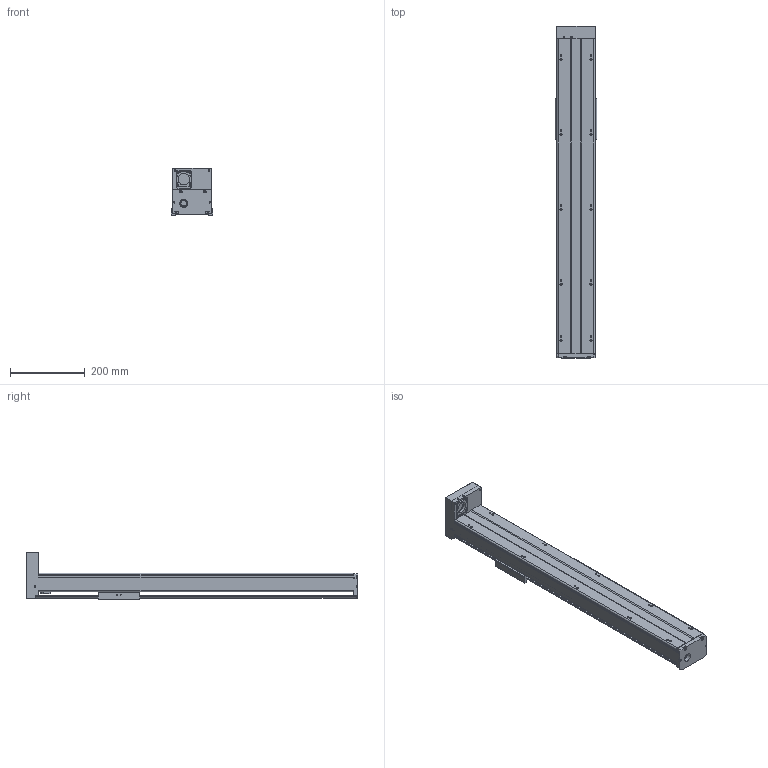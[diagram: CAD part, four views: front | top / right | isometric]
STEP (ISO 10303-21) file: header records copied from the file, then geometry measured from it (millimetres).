
FILE_DESCRIPTION(/* description */ (''),/* implementation_level */ '2;1');
FILE_NAME(/* name */ 'TKA100-FD-650_asm1.stp',/* time_stamp */ '2016-05-16T15:25:10+08:00',/* author */ (''),/* organization */ (''),/* preprocessor_version */ 'ST-DEVELOPER v15',/* originating_system */ 'SIEMENS PLM Software NX 8.5',/* authorisation */ '');
FILE_SCHEMA (('AUTOMOTIVE_DESIGN { 1 0 10303 214 3 1 1 1 }'));
Length unit declared in the file: millimetre
Products named in the file (3): 200-02; 200-01; TKA100-FD-650_asm1
Assembly tree (2 placements, depth 2):
  TKA100-FD-650_asm1
    200-01
    200-02
Bounding box: 110 x 886 x 127 mm (x, y, z)
Volume: 1930173.9 mm3; surface area: 671592.5 mm2
Topology: 2 solids, 11 shells, 786 faces, 2034 edges, 1320 vertices
Faces by surface type: cylinder 304, plane 296, cone 122, torus 38, bspline 26
Full cylindrical faces by diameter (mm): 2.5 x6, 2.6 x8, 3.3 x10, 3.4 x9, 3.8 x8, 4.2 x19, 4.3 x4, 4.5 x8, 5 x1, 5.5 x20, 6.6 x4, 8 x5, 9 x4, 10 x12, 11 x4, 12 x7, 15.3 x1, 16 x1, 22 x1, 24 x1, 28 x4, 30 x1, 33 x1
Entity records: 28212 total; most frequent: CARTESIAN_POINT 10011, DIRECTION 3798, ORIENTED_EDGE 3454, EDGE_CURVE 1727, AXIS2_PLACEMENT_3D 1518, VERTEX_POINT 1236, EDGE_LOOP 1122, ADVANCED_FACE 786
